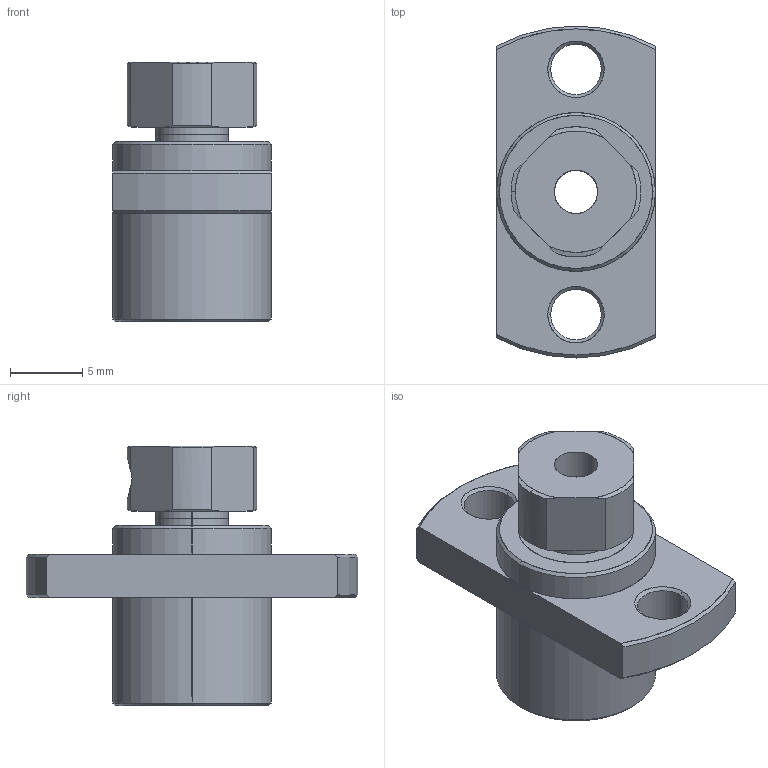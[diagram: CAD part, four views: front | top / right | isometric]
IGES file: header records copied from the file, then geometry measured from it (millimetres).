
Start section: SolidWorks IGES file using analytic representation for surfaces
Bounding box: 11 x 23 x 18 mm (x, y, z)
Surface area: 2263.9 mm2 (no closed solid volume)
Topology: 0 solids, 0 shells, 121 faces, 1688 edges, 1688 vertices
Faces by surface type: revolution 70, bspline 51
